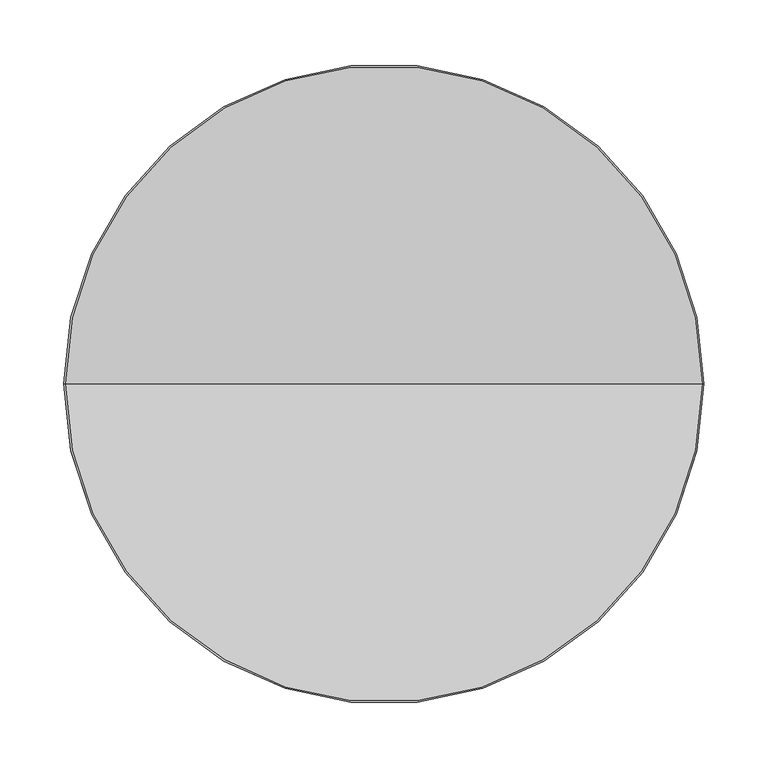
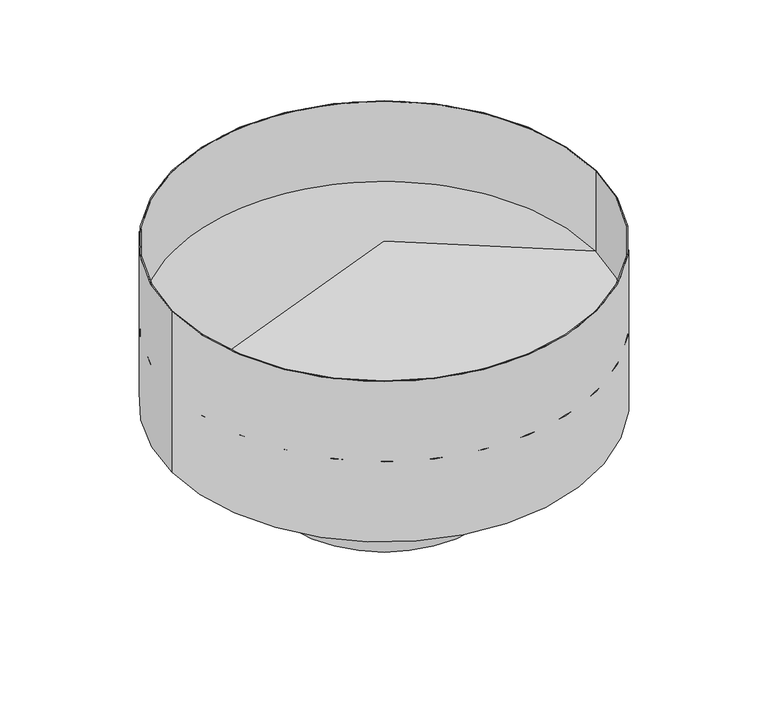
"""IFC4 building model written with IfcOpenShell, lengths in millimetres: air terminal geometry, BL_Дефлектор : BL_Дефлектор."""

from ifc_helpers import new_model, si_unit, frame, origin, place, context, project, spatial, polyline, circle_curve, source, transform, mapped, element, save
from ifc_brep_helpers import plane_surface, cylinder_surface, revolved_surface, advanced_brep


def air_terminal_fc5799da(model_context):
    return source(origin(), model_context, "Body", "AdvancedBrep", [
        advanced_brep(
        [(249.0, 0.0, 100.0), (-249.0, 0.0, 100.0), (-250.0, 0.0, 100.0), (250.0, 0.0, 100.0), (249.0, 0.0, 300.0), (-249.0, 0.0, 300.0), (250.0, 0.0, 300.0), (-250.0, 0.0, 300.0)],
        [
            (0, 1, circle_curve(frame((0.0, 0.0, 100.0), z_axis=(0.0, 0.0, 1.0), x_axis=(-1.0, 0.0, 0.0)), 249.0)),
            (1, 2),
            (2, 3, circle_curve(frame((0.0, 0.0, 100.0), z_axis=(0.0, 0.0, -1.0), x_axis=(-1.0, 0.0, 0.0)), 250.0)),
            (3, 0),
            (1, 0, circle_curve(frame((0.0, 0.0, 100.0), z_axis=(0.0, 0.0, 1.0), x_axis=(-1.0, 0.0, 0.0)), 249.0)),
            (3, 2, circle_curve(frame((0.0, 0.0, 100.0), z_axis=(0.0, 0.0, -1.0), x_axis=(-1.0, 0.0, 0.0)), 250.0)),
            (4, 5, circle_curve(frame((0.0, 0.0, 300.0), z_axis=(0.0, 0.0, 1.0), x_axis=(-1.0, 0.0, 0.0)), 249.0)),
            (5, 1),
            (0, 4),
            (5, 4, circle_curve(frame((0.0, 0.0, 300.0), z_axis=(0.0, 0.0, 1.0), x_axis=(-1.0, 0.0, 0.0)), 249.0)),
            (6, 7, circle_curve(frame((0.0, 0.0, 300.0), z_axis=(0.0, 0.0, 1.0), x_axis=(-1.0, 0.0, 0.0)), 250.0)),
            (7, 5),
            (4, 6),
            (7, 6, circle_curve(frame((0.0, 0.0, 300.0), z_axis=(0.0, 0.0, 1.0), x_axis=(-1.0, 0.0, 0.0)), 250.0)),
            (2, 7),
            (6, 3),
        ],
        [
            plane_surface(frame((0.0, 0.0, 100.0), z_axis=(0.0, 0.0, -1.0), x_axis=(-1.0, 0.0, 0.0))),
            revolved_surface(polyline([(-249.0, 0.0, 100.0), (-249.0, 0.0, 300.0)]), (0.0, 0.0, 2609.0581012), (0.0, 0.0, -1.0)),
            plane_surface(frame((0.0, 0.0, 300.0), z_axis=(0.0, 0.0, 1.0), x_axis=(-1.0, 0.0, 0.0))),
            cylinder_surface(frame((0.0, 0.0, 2609.0581012), z_axis=(0.0, 0.0, -1.0), x_axis=(-1.0, 0.0, 0.0)), 250.0),
        ],
        [
            (0, [[1, 2, 3, 4]]),
            (0, [[5, -4, 6, -2]]),
            (1, [[7, 8, -1, 9]]),
            (1, [[10, -9, -5, -8]]),
            (2, [[11, 12, -7, 13]]),
            (2, [[14, -13, -10, -12]]),
            (3, [[-3, 15, -11, 16]]),
            (3, [[-6, -16, -14, -15]]),
        ],
    ),
        advanced_brep(
        [(125.0, 0.0, 0.0), (-125.0, 0.0, 0.0), (-166.6666667, 0.0, 150.0), (166.6666667, 0.0, 150.0), (0.0, 0.0, 0.0), (250.0, 0.0, 200.0), (-250.0, 0.0, 200.0), (0.0, 0.0, 300.0)],
        [
            (0, 1, circle_curve(frame((0.0, 0.0, 0.0), z_axis=(0.0, 0.0, 1.0), x_axis=(-1.0, 0.0, 0.0)), 125.0)),
            (1, 2),
            (2, 3, circle_curve(frame((0.0, 0.0, 150.0), z_axis=(0.0, 0.0, -1.0), x_axis=(-1.0, 0.0, 0.0)), 166.6666667)),
            (3, 0),
            (1, 0, circle_curve(frame((0.0, 0.0, 0.0), z_axis=(0.0, 0.0, 1.0), x_axis=(-1.0, 0.0, 0.0)), 125.0)),
            (3, 2, circle_curve(frame((0.0, 0.0, 150.0), z_axis=(0.0, 0.0, -1.0), x_axis=(-1.0, 0.0, 0.0)), 166.6666667)),
            (4, 1),
            (0, 4),
            (5, 6, circle_curve(frame((0.0, 0.0, 200.0), z_axis=(0.0, 0.0, 1.0), x_axis=(-1.0, 0.0, 0.0)), 250.0)),
            (6, 7),
            (7, 5),
            (6, 5, circle_curve(frame((0.0, 0.0, 200.0), z_axis=(0.0, 0.0, 1.0), x_axis=(-1.0, 0.0, 0.0)), 250.0)),
            (2, 6),
            (5, 3),
        ],
        [
            revolved_surface(polyline([(-166.6666667, 0.0, 150.0), (-125.0, 0.0, 0.0)]), (0.0, 0.0, 2609.0581012), (0.0, 0.0, -1.0)),
            plane_surface(frame((0.0, 0.0, 0.0), z_axis=(0.0, 0.0, -1.0), x_axis=(-1.0, 0.0, 0.0))),
            revolved_surface(polyline([(0.0, 0.0, 300.0), (-250.0, 0.0, 200.0)]), (0.0, 0.0, 2609.0581012), (0.0, 0.0, -1.0)),
            revolved_surface(polyline([(-250.0, 0.0, 200.0), (-166.6666667, 0.0, 150.0)]), (0.0, 0.0, 2609.0581012), (0.0, 0.0, -1.0)),
        ],
        [
            (0, [[1, 2, 3, 4]]),
            (0, [[5, -4, 6, -2]]),
            (1, [[7, -1, 8]]),
            (1, [[-8, -5, -7]]),
            (2, [[9, 10, 11]]),
            (2, [[12, -11, -10]]),
            (3, [[-3, 13, -9, 14]]),
            (3, [[-6, -14, -12, -13]]),
        ],
    ),
    ])


if __name__ == "__main__":
    model = new_model("IFC4")
    model_context = context("Model", 3, world=origin())
    ifc_project = project(units=[si_unit("LENGTHUNIT", "METRE", prefix="MILLI")], contexts=[model_context])
    site = spatial("IfcSite", under=ifc_project)
    building = spatial("IfcBuilding", under=site)
    placement = place(None, origin())
    air_terminal_shape = air_terminal_fc5799da(model_context)
    element("IfcAirTerminal", 1, ObjectType="BL_Дефлектор : BL_Дефлектор", at=placement, inside=building, context=model_context, shape_type="MappedRepresentation", body=[
        mapped(air_terminal_shape, transform((0.0, 0.0, 0.0), x_axis=(1.0, 0.0, 0.0), y_axis=(0.0, 1.0, 0.0), z_axis=(0.0, 0.0, 1.0))),
    ])
    save(model, "model.ifc")
